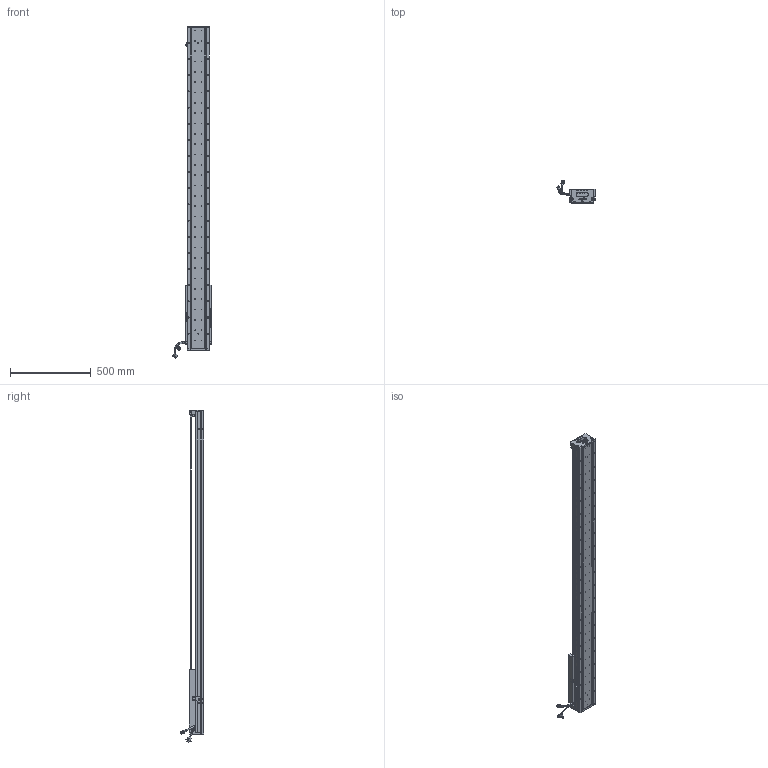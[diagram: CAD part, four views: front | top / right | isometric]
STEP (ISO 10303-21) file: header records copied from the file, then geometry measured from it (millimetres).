
FILE_DESCRIPTION (( 'STEP AP203' ), '1' );
FILE_NAME ('Z5-RY140D-1-L500-B-K.SLDASM_1550.step', '2021-05-17T08:37:05', ( '盈信电脑' ), ( '东莞市道滘镇水果街19号' ), 'SwSTEP 2.0', 'SolidWorks 2016', '' );
FILE_SCHEMA (( 'CONFIG_CONTROL_DESIGN' ));
Length unit declared in the file: millimetre
Products named in the file (36): PSLH080_PSLF2; Z-140詩湍傷裔啣; Z5-RY140D-1-L500-B-K.SLDASM_1550; PBU_SHEET; Z5-RY140-L500直线电机模组底座_1550; HARNESS-Part-2; Z5-RY140圉猾敕臏賑輸(21遴); SHIELDPLATE; SCALE; SEAL-Part-1; HOLDER0; SCREW-M1.7-1; 080黍杅芛假蚾釱21遴; COVER; 140-Z-臏賑輸盄裔(21遴); LABEL; Z5-RY140-L500詩湍100mm遵_1550; COVER-Part-1; SCREW-M1.6-1; 覜茼ん672; 詩湍奻揤裔; 140雄赽晤鎢ん堤盄; SCALE-Part-2; SCREW-M1.6; 榋妏寠巭燃_暯_M2_2; 詩湍狟揤裔; HARNESS; HARNESS-Part-1; LABEL-Part-1; SEAL; SCREW-M1.6-3; SCREW-M1.7; Z-RY140感应器672光电感应片; SCALE-Part-1; 140蚥薯蝶輸; SCREW-M1.6-2
Assembly tree (41 placements, depth 4):
  Z5-RY140D-1-L500-B-K.SLDASM_1550
    Z5-RY140-L500直线电机模组底座_1550
    Z-RY140感应器672光电感应片
    Z5-RY140圉猾敕臏賑輸(21遴)
    覜茼ん672  x3
    Z5-RY140-L500詩湍100mm遵_1550
    PSLH080_PSLF2
      SCALE
        SCALE-Part-1
        SCALE-Part-2
      HARNESS
        HARNESS-Part-1
        HARNESS-Part-2
      LABEL
        LABEL-Part-1
      COVER
        COVER-Part-1
      SEAL
        SEAL-Part-1
      榋妏寠巭燃_暯_M2_2
      SHIELDPLATE
      SCREW-M1.7
      SCREW-M1.7-1
      PBU_SHEET
      SCREW-M1.6
      SCREW-M1.6-1
      SCREW-M1.6-2
      SCREW-M1.6-3
      HOLDER0
    080黍杅芛假蚾釱21遴
    140-Z-臏賑輸盄裔(21遴)
    Z-140詩湍傷裔啣  x2
    詩湍狟揤裔  x2
    詩湍奻揤裔  x2
    140蚥薯蝶輸  x2
    140雄赽晤鎢ん堤盄
Bounding box: 239.84 x 143.88 x 2055.87 mm (x, y, z)
Volume: 7211542.7 mm3; surface area: 1832934.2 mm2
Topology: 36 solids, 36 shells, 3694 faces, 9934 edges, 6293 vertices
Faces by surface type: cylinder 1928, plane 1282, cone 362, torus 69, bspline 53
Entity records: 114130 total; most frequent: CARTESIAN_POINT 30849, ORIENTED_EDGE 16868, DIRECTION 16074, EDGE_CURVE 8434, AXIS2_PLACEMENT_3D 5982, VERTEX_POINT 5461, VECTOR 4110, LINE 4110
